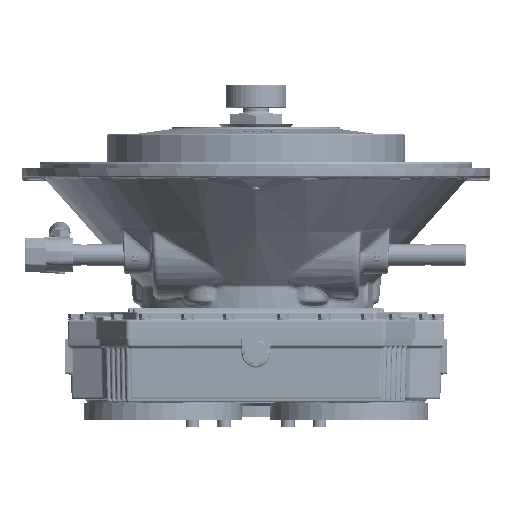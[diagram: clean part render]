
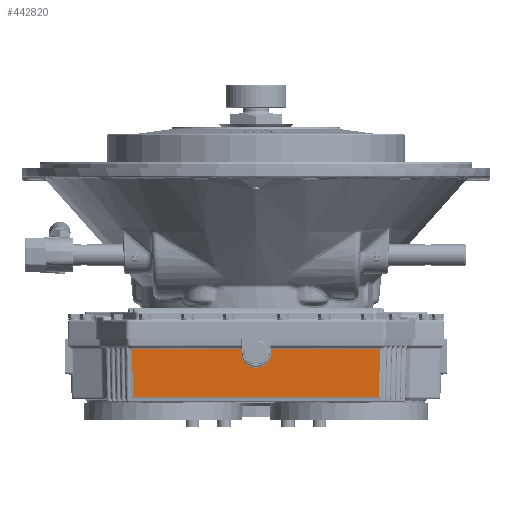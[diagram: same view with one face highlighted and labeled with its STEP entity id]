
A CAD part, front view. The second image highlights one B-rep face of the part: STEP entity #442820.
In plain terms, the highlighted planar face has unit normal (0, -1, -0.026).
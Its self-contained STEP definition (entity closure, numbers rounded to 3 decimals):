
#9318 = EDGE_CURVE ( 'NONE', #40860, #295254, #24130, .T. ) ;
#12742 = EDGE_CURVE ( 'NONE', #295254, #22227, #476680, .T. ) ;
#15340 = CARTESIAN_POINT ( 'NONE',  ( -146.346, -199.937, -2.417 ) ) ;
#22227 = VERTEX_POINT ( 'NONE', #235893 ) ;
#24130 = LINE ( 'NONE', #262291, #481212 ) ;
#40860 = VERTEX_POINT ( 'NONE', #150765 ) ;
#48127 = CARTESIAN_POINT ( 'NONE',  ( 13.633, -200., 0. ) ) ;
#55206 = CARTESIAN_POINT ( 'NONE',  ( -17.994, -199.57, -16.419 ) ) ;
#62040 = EDGE_CURVE ( 'NONE', #22227, #221894, #338989, .T. ) ;
#65774 = LINE ( 'NONE', #179876, #439033 ) ;
#76512 = VERTEX_POINT ( 'NONE', #309448 ) ;
#78228 = CARTESIAN_POINT ( 'NONE',  ( -146.231, -199.681, -12.194 ) ) ;
#107510 = LINE ( 'NONE', #78228, #391955 ) ;
#115620 = ORIENTED_EDGE ( 'NONE', *, *, #138910, .T. ) ;
#116584 = CARTESIAN_POINT ( 'NONE',  ( -146.231, -199.681, -12.194 ) ) ;
#124472 = ORIENTED_EDGE ( 'NONE', *, *, #399159, .T. ) ;
#127800 = CARTESIAN_POINT ( 'NONE',  ( 17.099, -198.675, -50.604 ) ) ;
#133300 = DIRECTION ( 'NONE',  ( 0.015, -0.026, 1. ) ) ;
#135420 = CARTESIAN_POINT ( 'NONE',  ( 17.994, -199.57, -16.419 ) ) ;
#138910 = EDGE_CURVE ( 'NONE', #76512, #40860, #482684, .T. ) ;
#139255 = VECTOR ( 'NONE', #279583, 1000. ) ;
#150765 = CARTESIAN_POINT ( 'NONE',  ( -17.994, -199.57, -16.419 ) ) ;
#150981 = DIRECTION ( 'NONE',  ( -0.026, -0.026, 0.999 ) ) ;
#179876 = CARTESIAN_POINT ( 'NONE',  ( 13.633, -198.204, -68.579 ) ) ;
#198408 = PLANE ( 'NONE',  #285683 ) ;
#206099 = DIRECTION ( 'NONE',  ( 0., -1., -0.026 ) ) ;
#212960 = CARTESIAN_POINT ( 'NONE',  ( 18.42, -199.997, -0.125 ) ) ;
#214233 = ORIENTED_EDGE ( 'NONE', *, *, #371812, .T. ) ;
#221539 = DIRECTION ( 'NONE',  ( -1., 0., 0. ) ) ;
#221894 = VERTEX_POINT ( 'NONE', #454047 ) ;
#222769 = VERTEX_POINT ( 'NONE', #298913 ) ;
#223861 = EDGE_CURVE ( 'NONE', #258140, #420414, #107510, .T. ) ;
#232236 = EDGE_CURVE ( 'NONE', #221894, #222769, #65774, .T. ) ;
#235893 = CARTESIAN_POINT ( 'NONE',  ( -146.198, -199.681, -12.194 ) ) ;
#257390 = LINE ( 'NONE', #293577, #342027 ) ;
#258140 = VERTEX_POINT ( 'NONE', #477261 ) ;
#262291 = CARTESIAN_POINT ( 'NONE',  ( -18.402, -199.978, -0.838 ) ) ;
#279583 = DIRECTION ( 'NONE',  ( -1., 0., 0. ) ) ;
#285683 = AXIS2_PLACEMENT_3D ( 'NONE', #48127, #206099, #483273 ) ;
#293577 = CARTESIAN_POINT ( 'NONE',  ( 146.352, -199.947, -2.005 ) ) ;
#295254 = VERTEX_POINT ( 'NONE', #468243 ) ;
#298913 = CARTESIAN_POINT ( 'NONE',  ( 145.345, -198.204, -68.579 ) ) ;
#309448 = CARTESIAN_POINT ( 'NONE',  ( 17.994, -199.57, -16.419 ) ) ;
#318254 = VECTOR ( 'NONE', #497049, 1000. ) ;
#338989 = LINE ( 'NONE', #15340, #318254 ) ;
#342027 = VECTOR ( 'NONE', #133300, 1000. ) ;
#343594 = ORIENTED_EDGE ( 'NONE', *, *, #12742, .T. ) ;
#344760 = ORIENTED_EDGE ( 'NONE', *, *, #223861, .T. ) ;
#349841 = ORIENTED_EDGE ( 'NONE', *, *, #62040, .T. ) ;
#366678 = VECTOR ( 'NONE', #373408, 1000. ) ;
#371812 = EDGE_CURVE ( 'NONE', #420414, #76512, #409712, .T. ) ;
#373408 = DIRECTION ( 'NONE',  ( -0.026, 0.026, -0.999 ) ) ;
#391955 = VECTOR ( 'NONE', #221539, 1000. ) ;
#399159 = EDGE_CURVE ( 'NONE', #222769, #258140, #257390, .T. ) ;
#409712 = LINE ( 'NONE', #212960, #366678 ) ;
#410640 = CARTESIAN_POINT ( 'NONE',  ( 18.104, -199.681, -12.194 ) ) ;
#420414 = VERTEX_POINT ( 'NONE', #410640 ) ;
#433482 = ORIENTED_EDGE ( 'NONE', *, *, #232236, .T. ) ;
#434079 = FACE_OUTER_BOUND ( 'NONE', #488273, .T. ) ;
#439033 = VECTOR ( 'NONE', #505998, 1000. ) ;
#442820 = ADVANCED_FACE ( 'NONE', ( #434079 ), #198408, .T. ) ;
#451475 = ORIENTED_EDGE ( 'NONE', *, *, #9318, .T. ) ;
#454047 = CARTESIAN_POINT ( 'NONE',  ( -145.345, -198.204, -68.579 ) ) ;
#468243 = CARTESIAN_POINT ( 'NONE',  ( -18.104, -199.681, -12.194 ) ) ;
#476680 = LINE ( 'NONE', #116584, #139255 ) ;
#477261 = CARTESIAN_POINT ( 'NONE',  ( 146.198, -199.681, -12.194 ) ) ;
#481212 = VECTOR ( 'NONE', #150981, 1000. ) ;
#482684 =( BOUNDED_CURVE ( )  B_SPLINE_CURVE ( 3, ( #135420, #127800, #487773, #55206 ),
 .UNSPECIFIED., .F., .F. ) 
 B_SPLINE_CURVE_WITH_KNOTS ( ( 4, 4 ),
 ( 1.597, 4.686 ),
 .UNSPECIFIED. ) 
 CURVE ( )  GEOMETRIC_REPRESENTATION_ITEM ( )  RATIONAL_B_SPLINE_CURVE ( ( 1., 0.351, 0.351, 1. ) ) 
 REPRESENTATION_ITEM ( '' )  );
#483273 = DIRECTION ( 'NONE',  ( 0., -0.026, 1. ) ) ;
#487773 = CARTESIAN_POINT ( 'NONE',  ( -17.099, -198.675, -50.604 ) ) ;
#488273 = EDGE_LOOP ( 'NONE', ( #115620, #451475, #343594, #349841, #433482, #124472, #344760, #214233 ) ) ;
#497049 = DIRECTION ( 'NONE',  ( 0.015, 0.026, -1. ) ) ;
#505998 = DIRECTION ( 'NONE',  ( 1., 0., 0. ) ) ;
